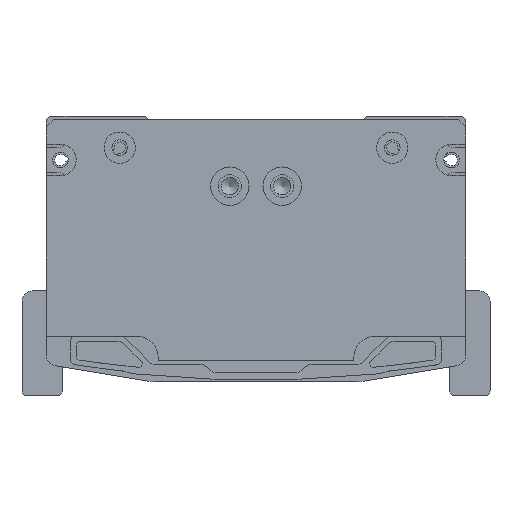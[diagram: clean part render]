
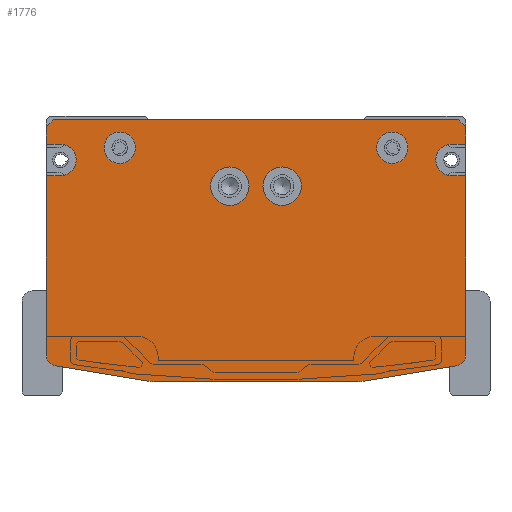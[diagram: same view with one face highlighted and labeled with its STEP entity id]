
A CAD part, front view. The second image highlights one B-rep face of the part: STEP entity #1776.
In plain terms, the highlighted planar face has unit normal (0, -1, 0).
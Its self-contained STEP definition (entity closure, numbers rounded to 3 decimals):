
#904=FACE_BOUND('',#3514,.T.);
#905=FACE_BOUND('',#3515,.T.);
#906=FACE_BOUND('',#3516,.T.);
#907=FACE_BOUND('',#3517,.T.);
#908=FACE_BOUND('',#3518,.T.);
#1776=ADVANCED_FACE('',(#904,#905,#906,#907,#908),#2380,.F.);
#2380=PLANE('',#14970);
#3514=EDGE_LOOP('',(#6917));
#3515=EDGE_LOOP('',(#6918));
#3516=EDGE_LOOP('',(#6919,#6920,#6921,#6922,#6923,#6924,#6925,#6926,#6927,
#6928,#6929,#6930,#6931,#6932,#6933,#6934,#6935,#6936,#6937,#6938));
#3517=EDGE_LOOP('',(#6939));
#3518=EDGE_LOOP('',(#6940));
#4550=CIRCLE('',#14871,5.5);
#4554=CIRCLE('',#14878,5.5);
#4557=CIRCLE('',#14884,4.5);
#4561=CIRCLE('',#14891,4.5);
#4568=CIRCLE('',#14909,4.5);
#4571=CIRCLE('',#14918,3.);
#4574=CIRCLE('',#14923,10.);
#4575=CIRCLE('',#14926,10.);
#4578=CIRCLE('',#14931,3.);
#4586=CIRCLE('',#14958,4.5);
#6917=ORIENTED_EDGE('',*,*,#11282,.T.);
#6918=ORIENTED_EDGE('',*,*,#11286,.T.);
#6919=ORIENTED_EDGE('',*,*,#11347,.T.);
#6920=ORIENTED_EDGE('',*,*,#11343,.F.);
#6921=ORIENTED_EDGE('',*,*,#11341,.F.);
#6922=ORIENTED_EDGE('',*,*,#11338,.F.);
#6923=ORIENTED_EDGE('',*,*,#11334,.T.);
#6924=ORIENTED_EDGE('',*,*,#11331,.T.);
#6925=ORIENTED_EDGE('',*,*,#10989,.F.);
#6926=ORIENTED_EDGE('',*,*,#11317,.T.);
#6927=ORIENTED_EDGE('',*,*,#11314,.T.);
#6928=ORIENTED_EDGE('',*,*,#11312,.F.);
#6929=ORIENTED_EDGE('',*,*,#10985,.F.);
#6930=ORIENTED_EDGE('',*,*,#11308,.T.);
#6931=ORIENTED_EDGE('',*,*,#10960,.F.);
#6932=ORIENTED_EDGE('',*,*,#11306,.T.);
#6933=ORIENTED_EDGE('',*,*,#10743,.F.);
#6934=ORIENTED_EDGE('',*,*,#11382,.T.);
#6935=ORIENTED_EDGE('',*,*,#11379,.T.);
#6936=ORIENTED_EDGE('',*,*,#11377,.F.);
#6937=ORIENTED_EDGE('',*,*,#10739,.F.);
#6938=ORIENTED_EDGE('',*,*,#11350,.T.);
#6939=ORIENTED_EDGE('',*,*,#11293,.F.);
#6940=ORIENTED_EDGE('',*,*,#11289,.F.);
#9260=VERTEX_POINT('',#21397);
#9261=VERTEX_POINT('',#21399);
#9264=VERTEX_POINT('',#21405);
#9265=VERTEX_POINT('',#21407);
#9373=VERTEX_POINT('',#22047);
#9374=VERTEX_POINT('',#22049);
#9389=VERTEX_POINT('',#22095);
#9390=VERTEX_POINT('',#22097);
#9393=VERTEX_POINT('',#22103);
#9394=VERTEX_POINT('',#22105);
#9592=VERTEX_POINT('',#23201);
#9596=VERTEX_POINT('',#23212);
#9599=VERTEX_POINT('',#23221);
#9602=VERTEX_POINT('',#23231);
#9610=VERTEX_POINT('',#23266);
#9612=VERTEX_POINT('',#23273);
#9623=VERTEX_POINT('',#23307);
#9625=VERTEX_POINT('',#23313);
#9628=VERTEX_POINT('',#23321);
#9630=VERTEX_POINT('',#23327);
#9631=VERTEX_POINT('',#23331);
#9634=VERTEX_POINT('',#23339);
#9646=VERTEX_POINT('',#23398);
#9648=VERTEX_POINT('',#23405);
#10739=EDGE_CURVE('',#9260,#9261,#12410,.T.);
#10743=EDGE_CURVE('',#9264,#9265,#12414,.T.);
#10960=EDGE_CURVE('',#9373,#9374,#12538,.T.);
#10985=EDGE_CURVE('',#9389,#9390,#12563,.T.);
#10989=EDGE_CURVE('',#9393,#9394,#12567,.T.);
#11282=EDGE_CURVE('',#9592,#9592,#4550,.T.);
#11286=EDGE_CURVE('',#9596,#9596,#4554,.T.);
#11289=EDGE_CURVE('',#9599,#9599,#4557,.T.);
#11293=EDGE_CURVE('',#9602,#9602,#4561,.T.);
#11306=EDGE_CURVE('',#9373,#9265,#12741,.T.);
#11308=EDGE_CURVE('',#9389,#9374,#12743,.T.);
#11312=EDGE_CURVE('',#9390,#9610,#12747,.T.);
#11314=EDGE_CURVE('',#9612,#9610,#4568,.T.);
#11317=EDGE_CURVE('',#9393,#9612,#12750,.T.);
#11331=EDGE_CURVE('',#9623,#9394,#4571,.T.);
#11334=EDGE_CURVE('',#9625,#9623,#12763,.T.);
#11338=EDGE_CURVE('',#9625,#9628,#4574,.T.);
#11341=EDGE_CURVE('',#9628,#9630,#12768,.T.);
#11343=EDGE_CURVE('',#9630,#9631,#4575,.T.);
#11347=EDGE_CURVE('',#9634,#9631,#12772,.T.);
#11350=EDGE_CURVE('',#9260,#9634,#4578,.T.);
#11377=EDGE_CURVE('',#9261,#9646,#12794,.T.);
#11379=EDGE_CURVE('',#9648,#9646,#4586,.T.);
#11382=EDGE_CURVE('',#9264,#9648,#12797,.T.);
#12410=LINE('',#21398,#13427);
#12414=LINE('',#21406,#13431);
#12538=LINE('',#22048,#13555);
#12563=LINE('',#22096,#13580);
#12567=LINE('',#22104,#13584);
#12741=LINE('',#23258,#13758);
#12743=LINE('',#23261,#13760);
#12747=LINE('',#23268,#13764);
#12750=LINE('',#23277,#13767);
#12763=LINE('',#23312,#13780);
#12768=LINE('',#23326,#13785);
#12772=LINE('',#23338,#13789);
#12794=LINE('',#23400,#13811);
#12797=LINE('',#23409,#13814);
#13427=VECTOR('',#16632,1.);
#13431=VECTOR('',#16636,1.);
#13555=VECTOR('',#17042,1.);
#13580=VECTOR('',#17081,1.);
#13584=VECTOR('',#17085,1.);
#13758=VECTOR('',#17837,1.);
#13760=VECTOR('',#17841,1.);
#13764=VECTOR('',#17847,1.);
#13767=VECTOR('',#17858,1.);
#13780=VECTOR('',#17891,1.);
#13785=VECTOR('',#17904,1.);
#13789=VECTOR('',#17916,1.);
#13811=VECTOR('',#17992,1.);
#13814=VECTOR('',#18003,1.);
#14871=AXIS2_PLACEMENT_3D('',#23200,#17762,#17763);
#14878=AXIS2_PLACEMENT_3D('',#23211,#17776,#17777);
#14884=AXIS2_PLACEMENT_3D('',#23220,#17788,#17789);
#14891=AXIS2_PLACEMENT_3D('',#23230,#17802,#17803);
#14909=AXIS2_PLACEMENT_3D('',#23272,#17852,#17853);
#14918=AXIS2_PLACEMENT_3D('',#23306,#17884,#17885);
#14923=AXIS2_PLACEMENT_3D('',#23320,#17898,#17899);
#14926=AXIS2_PLACEMENT_3D('',#23330,#17908,#17909);
#14931=AXIS2_PLACEMENT_3D('',#23343,#17922,#17923);
#14958=AXIS2_PLACEMENT_3D('',#23404,#17997,#17998);
#14970=AXIS2_PLACEMENT_3D('',#23426,#18028,#18029);
#16632=DIRECTION('',(0.,0.,1.));
#16636=DIRECTION('',(0.,0.,1.));
#17042=DIRECTION('',(1.,0.,0.));
#17081=DIRECTION('',(0.,0.,-1.));
#17085=DIRECTION('',(0.,0.,-1.));
#17762=DIRECTION('',(0.,1.,0.));
#17763=DIRECTION('',(1.,0.,0.));
#17776=DIRECTION('',(0.,1.,0.));
#17777=DIRECTION('',(1.,0.,0.));
#17788=DIRECTION('',(0.,-1.,0.));
#17789=DIRECTION('',(1.,0.,0.));
#17802=DIRECTION('',(0.,-1.,0.));
#17803=DIRECTION('',(1.,0.,0.));
#17837=DIRECTION('',(-0.707,0.,-0.707));
#17841=DIRECTION('',(-0.707,0.,0.707));
#17847=DIRECTION('',(-1.,0.,0.));
#17852=DIRECTION('',(0.,1.,0.));
#17853=DIRECTION('',(0.,0.,-1.));
#17858=DIRECTION('',(-1.,0.,0.));
#17884=DIRECTION('',(0.,-1.,0.));
#17885=DIRECTION('',(0.164,0.,-0.986));
#17891=DIRECTION('',(0.986,0.,0.164));
#17898=DIRECTION('',(0.,1.,0.));
#17899=DIRECTION('',(0.164,0.,-0.986));
#17904=DIRECTION('',(-1.,0.,0.));
#17908=DIRECTION('',(0.,1.,0.));
#17909=DIRECTION('',(0.,0.,-1.));
#17916=DIRECTION('',(0.986,0.,-0.164));
#17922=DIRECTION('',(0.,-1.,0.));
#17923=DIRECTION('',(-1.,0.,0.));
#17992=DIRECTION('',(1.,0.,0.));
#17997=DIRECTION('',(0.,1.,0.));
#17998=DIRECTION('',(0.,0.,1.));
#18003=DIRECTION('',(1.,0.,0.));
#18028=DIRECTION('',(0.,1.,0.));
#18029=DIRECTION('',(-1.,0.,0.));
#21397=CARTESIAN_POINT('',(-60.,-812.,-69.459));
#21398=CARTESIAN_POINT('',(-60.,-812.,-69.459));
#21399=CARTESIAN_POINT('',(-60.,-812.,-18.));
#21405=CARTESIAN_POINT('',(-60.,-812.,-9.));
#21406=CARTESIAN_POINT('',(-60.,-812.,-9.));
#21407=CARTESIAN_POINT('',(-60.,-812.,-4.));
#22047=CARTESIAN_POINT('',(-58.,-812.,-2.));
#22048=CARTESIAN_POINT('',(-58.,-812.,-2.));
#22049=CARTESIAN_POINT('',(58.,-812.,-2.));
#22095=CARTESIAN_POINT('',(60.,-812.,-4.));
#22096=CARTESIAN_POINT('',(60.,-812.,-4.));
#22097=CARTESIAN_POINT('',(60.,-812.,-9.));
#22103=CARTESIAN_POINT('',(60.,-812.,-18.));
#22104=CARTESIAN_POINT('',(60.,-812.,-18.));
#22105=CARTESIAN_POINT('',(60.,-812.,-69.459));
#23200=CARTESIAN_POINT('',(7.5,-812.,-21.));
#23201=CARTESIAN_POINT('',(13.,-812.,-21.));
#23211=CARTESIAN_POINT('',(-7.5,-812.,-21.));
#23212=CARTESIAN_POINT('',(-2.,-812.,-21.));
#23220=CARTESIAN_POINT('',(-39.,-812.,-10.));
#23221=CARTESIAN_POINT('',(-34.5,-812.,-10.));
#23230=CARTESIAN_POINT('',(39.,-812.,-10.));
#23231=CARTESIAN_POINT('',(43.5,-812.,-10.));
#23258=CARTESIAN_POINT('',(-58.,-812.,-2.));
#23261=CARTESIAN_POINT('',(60.,-812.,-4.));
#23266=CARTESIAN_POINT('',(56.,-812.,-9.));
#23268=CARTESIAN_POINT('',(60.,-812.,-9.));
#23272=CARTESIAN_POINT('',(56.,-812.,-13.5));
#23273=CARTESIAN_POINT('',(56.,-812.,-18.));
#23277=CARTESIAN_POINT('',(60.,-812.,-18.));
#23306=CARTESIAN_POINT('',(57.,-812.,-69.459));
#23307=CARTESIAN_POINT('',(57.493,-812.,-72.418));
#23312=CARTESIAN_POINT('',(30.816,-812.,-76.864));
#23313=CARTESIAN_POINT('',(30.816,-812.,-76.864));
#23320=CARTESIAN_POINT('',(29.172,-812.,-67.));
#23321=CARTESIAN_POINT('',(29.172,-812.,-77.));
#23326=CARTESIAN_POINT('',(29.172,-812.,-77.));
#23327=CARTESIAN_POINT('',(-29.172,-812.,-77.));
#23330=CARTESIAN_POINT('',(-29.172,-812.,-67.));
#23331=CARTESIAN_POINT('',(-30.816,-812.,-76.864));
#23338=CARTESIAN_POINT('',(-57.493,-812.,-72.418));
#23339=CARTESIAN_POINT('',(-57.493,-812.,-72.418));
#23343=CARTESIAN_POINT('',(-57.,-812.,-69.459));
#23398=CARTESIAN_POINT('',(-56.,-812.,-18.));
#23400=CARTESIAN_POINT('',(-60.,-812.,-18.));
#23404=CARTESIAN_POINT('',(-56.,-812.,-13.5));
#23405=CARTESIAN_POINT('',(-56.,-812.,-9.));
#23409=CARTESIAN_POINT('',(-60.,-812.,-9.));
#23426=CARTESIAN_POINT('',(0.,-812.,-2.));
